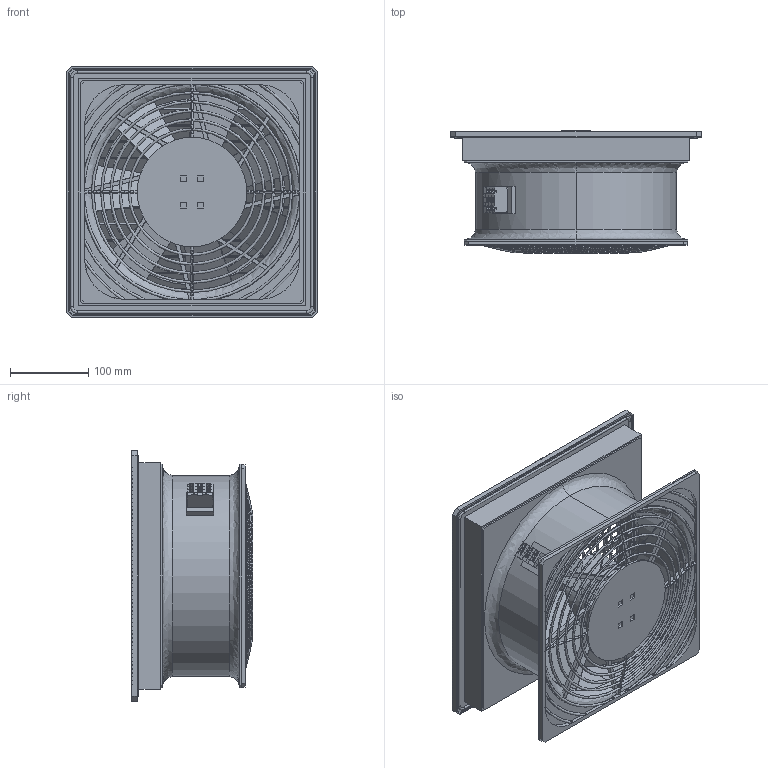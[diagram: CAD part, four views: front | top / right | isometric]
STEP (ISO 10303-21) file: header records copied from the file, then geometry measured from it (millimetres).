
FILE_DESCRIPTION (( 'STEP AP203' ), '1' );
FILE_NAME ('EF600R5_V2.step', '2013-02-08T07:57:33', ( '' ), ( '' ), 'SwSTEP 2.0', 'SolidWorks 2011', '' );
FILE_SCHEMA (( 'CONFIG_CONTROL_DESIGN' ));
Length unit declared in the file: millimetre
Products named in the file (7): Klemme_L_N_PE_Standard; EF600R5_V2; fan flow in nozzel PF6x_Standard; housing PF6x_Standard; safty guard PF6x_Standard; Axial Lüfter Serie S2x 250_narrow_S2E 250 M2E068-CA; cover PF6x_Standard
Assembly tree (6 placements, depth 2):
  EF600R5_V2
    housing PF6x_Standard
    fan flow in nozzel PF6x_Standard
    cover PF6x_Standard
    Klemme_L_N_PE_Standard
    safty guard PF6x_Standard
    Axial Lüfter Serie S2x 250_narrow_S2E 250 M2E068-CA
Bounding box: 320 x 155.7 x 320 mm (x, y, z)
Volume: 1566906.3 mm3; surface area: 997337.2 mm2
Topology: 13 solids, 13 shells, 1285 faces, 3655 edges, 2233 vertices
Faces by surface type: plane 532, cylinder 530, bspline 217, cone 6
Entity records: 64183 total; most frequent: CARTESIAN_POINT 32626, ORIENTED_EDGE 7310, DIRECTION 5507, EDGE_CURVE 3655, VERTEX_POINT 2233, AXIS2_PLACEMENT_3D 1963, VECTOR 1581, LINE 1581
